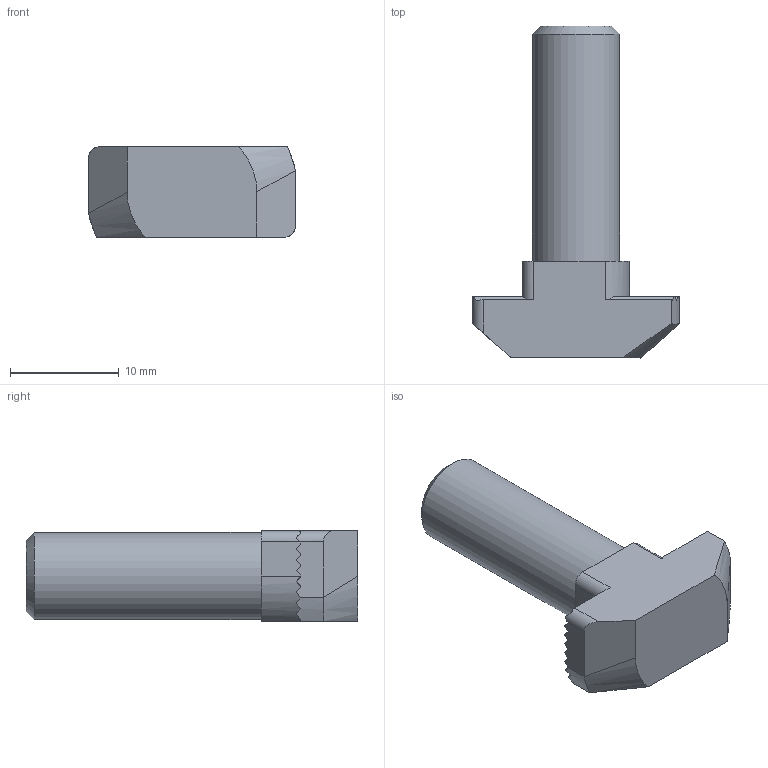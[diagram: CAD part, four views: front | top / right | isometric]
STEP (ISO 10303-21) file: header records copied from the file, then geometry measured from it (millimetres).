
FILE_DESCRIPTION(/* description */ ('www.motedis.com/part/THBM8X25verstemmt','CAx-IF Rec.Pracs.---Representation and Presentation of Product Manufacturing Information (PMI)---4.0---2014-10-13'),/* implementation_level */ '2;1');
FILE_NAME(/* name */ 'Motedis_THBM8X25verstemmt.stp',/* time_stamp */ '2026-10-07T09:50:19+02:00',/* author */ ('Motedis'),/* organization */ ('Motedis GmbH'),/* preprocessor_version */ 'ST-DEVELOPER v20.1',/* originating_system */ 'Autodesk Inventor 2026',/* authorisation */ 'Motedis GmbH');
FILE_SCHEMA (('AP242_MANAGED_MODEL_BASED_3D_ENGINEERING_MIM_LF { 1 0 10303 442 2 1 4 }'));
Length unit declared in the file: millimetre
Products named in the file (1): Motedis_THBM8X25verstemmt
Bounding box: 19 x 30.5 x 8.3 mm (x, y, z)
Volume: 2091.6 mm3; surface area: 1210.6 mm2
Topology: 1 solids, 1 shells, 80 faces, 224 edges, 148 vertices
Faces by surface type: plane 52, cylinder 25, bspline 2, cone 1
Full cylindrical faces by diameter (mm): 8 x1
Entity records: 2943 total; most frequent: CARTESIAN_POINT 718, DIRECTION 460, ORIENTED_EDGE 448, EDGE_CURVE 224, AXIS2_PLACEMENT_3D 163, VERTEX_POINT 148, LINE 134, VECTOR 134
